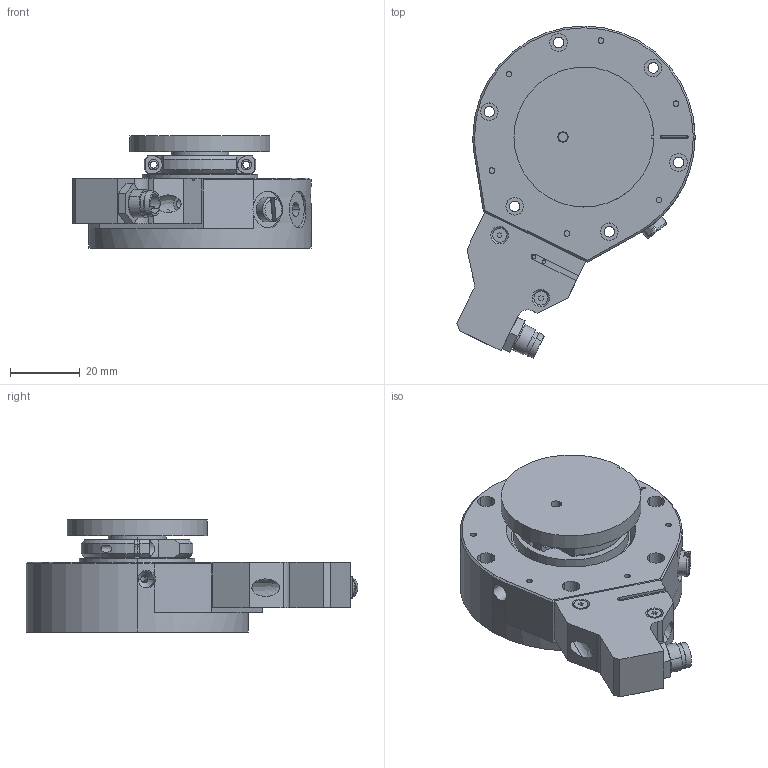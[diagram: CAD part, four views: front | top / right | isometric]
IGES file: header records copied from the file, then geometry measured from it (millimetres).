
Start section: Comment
Global section: file name: 99-0083A.igs; native system: Parasolid(13.0); preprocessor: Pariges 4.4; author: Author; organization: Title; date: 20011004.115311; units: millimetre
Bounding box: 68.04 x 94.88 x 32.02 mm (x, y, z)
Volume: 70130.1 mm3; surface area: 34745.6 mm2
Topology: 1 solids, 17 shells, 688 faces, 1643 edges, 1044 vertices
Faces by surface type: bspline 688
